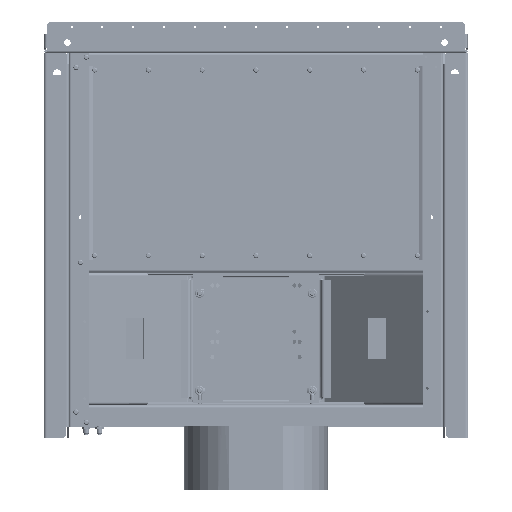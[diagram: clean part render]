
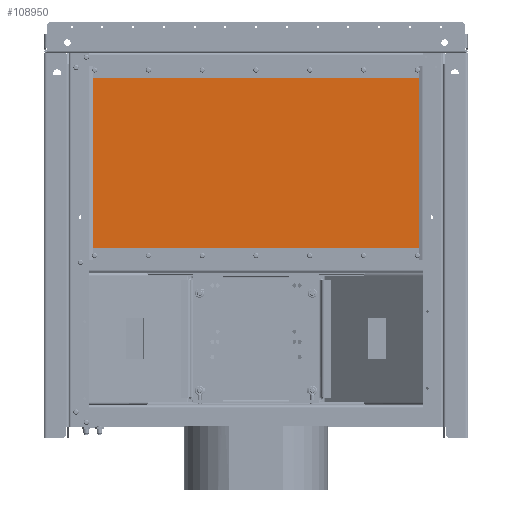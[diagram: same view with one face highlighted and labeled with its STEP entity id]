
A CAD part, front view. The second image highlights one B-rep face of the part: STEP entity #108950.
In plain terms, the highlighted planar face has unit normal (0, -1, 0) as drawn and (0, 1, 0) by its records, which use the part's own axes.
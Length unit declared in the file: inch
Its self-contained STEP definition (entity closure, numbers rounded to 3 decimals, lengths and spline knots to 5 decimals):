
#108835=DIRECTION('',(1.,0.,0.));
#108836=VECTOR('',#108835,16.6487);
#108837=CARTESIAN_POINT('',(-8.32435,1.93,16.1));
#108838=LINE('',#108837,#108836);
#108839=DIRECTION('',(0.,0.,1.));
#108840=VECTOR('',#108839,32.2);
#108841=CARTESIAN_POINT('',(-8.32435,1.93,-16.1));
#108842=LINE('',#108841,#108840);
#108843=DIRECTION('',(-1.,0.,0.));
#108844=VECTOR('',#108843,16.6487);
#108845=CARTESIAN_POINT('',(8.32435,1.93,-16.1));
#108846=LINE('',#108845,#108844);
#108847=DIRECTION('',(0.,0.,-1.));
#108848=VECTOR('',#108847,32.2);
#108849=CARTESIAN_POINT('',(8.32435,1.93,16.1));
#108850=LINE('',#108849,#108848);
#108859=CARTESIAN_POINT('',(-8.32435,1.93,16.1));
#108860=CARTESIAN_POINT('',(8.32435,1.93,16.1));
#108861=VERTEX_POINT('',#108859);
#108862=VERTEX_POINT('',#108860);
#108863=CARTESIAN_POINT('',(8.32435,1.93,-16.1));
#108864=VERTEX_POINT('',#108863);
#108865=CARTESIAN_POINT('',(-8.32435,1.93,-16.1));
#108866=VERTEX_POINT('',#108865);
#108939=CARTESIAN_POINT('',(0.,1.93,0.));
#108940=DIRECTION('',(0.,1.,0.));
#108941=DIRECTION('',(1.,0.,0.));
#108942=AXIS2_PLACEMENT_3D('',#108939,#108940,#108941);
#108943=PLANE('',#108942);
#108944=ORIENTED_EDGE('',*,*,#108891,.F.);
#108945=ORIENTED_EDGE('',*,*,#108906,.F.);
#108946=ORIENTED_EDGE('',*,*,#108920,.F.);
#108947=ORIENTED_EDGE('',*,*,#108933,.F.);
#108948=EDGE_LOOP('',(#108944,#108945,#108946,#108947));
#108949=FACE_OUTER_BOUND('',#108948,.F.);
#108950=ADVANCED_FACE('',(#108949),#108943,.T.);
#108891=EDGE_CURVE('',#108861,#108862,#108838,.T.);
#108906=EDGE_CURVE('',#108866,#108861,#108842,.T.);
#108920=EDGE_CURVE('',#108864,#108866,#108846,.T.);
#108933=EDGE_CURVE('',#108862,#108864,#108850,.T.);
